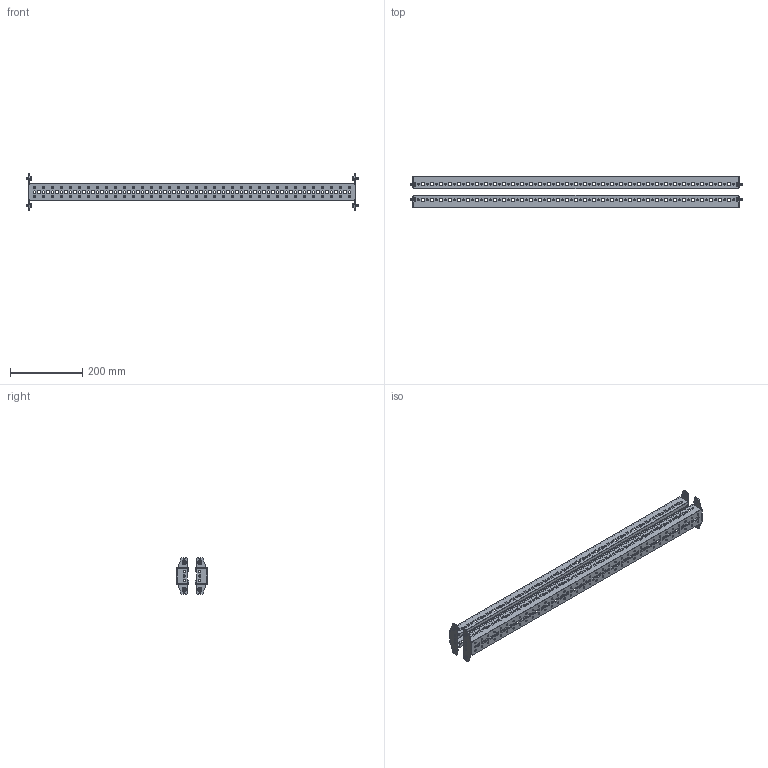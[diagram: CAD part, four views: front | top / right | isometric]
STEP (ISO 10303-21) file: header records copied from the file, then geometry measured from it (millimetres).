
FILE_DESCRIPTION (( 'STEP AP214' ), '1' );
FILE_NAME ('FO-00-VRC-100 Ðåéêà ìîíòàæíàÿ òèïà C 1000 ìì (2 øò.óïàê.).STEP', '2025-07-31T12:48:14', ( '' ), ( '' ), 'SwSTEP 2.0', 'SolidWorks 2023', '' );
FILE_SCHEMA (( 'AUTOMOTIVE_DESIGN' ));
Length unit declared in the file: millimetre
Products named in the file (3): Винт М6х10 1000 IEK; FO-00-VRC-100 Рейка монтажная типа C 1000 мм (2 шт.упак.); Рейка монтажная типа C 1000 мм
Assembly tree (6 placements, depth 2):
  FO-00-VRC-100 Рейка монтажная типа C 1000 мм (2 шт.упак.)
    Рейка монтажная типа C 1000 мм  x2
    Винт М6х10 1000 IEK  x4
Bounding box: 922 x 85.31 x 101.65 mm (x, y, z)
Volume: 419782 mm3; surface area: 458911.5 mm2
Topology: 10 solids, 10 shells, 2796 faces, 7448 edges, 4688 vertices
Faces by surface type: plane 1092, cylinder 1056, cone 616, torus 32
Entity records: 37883 total; most frequent: DIRECTION 6500, CARTESIAN_POINT 6431, ORIENTED_EDGE 6364, EDGE_CURVE 3182, AXIS2_PLACEMENT_3D 2185, LINE 2130, VECTOR 2130, VERTEX_POINT 2052
